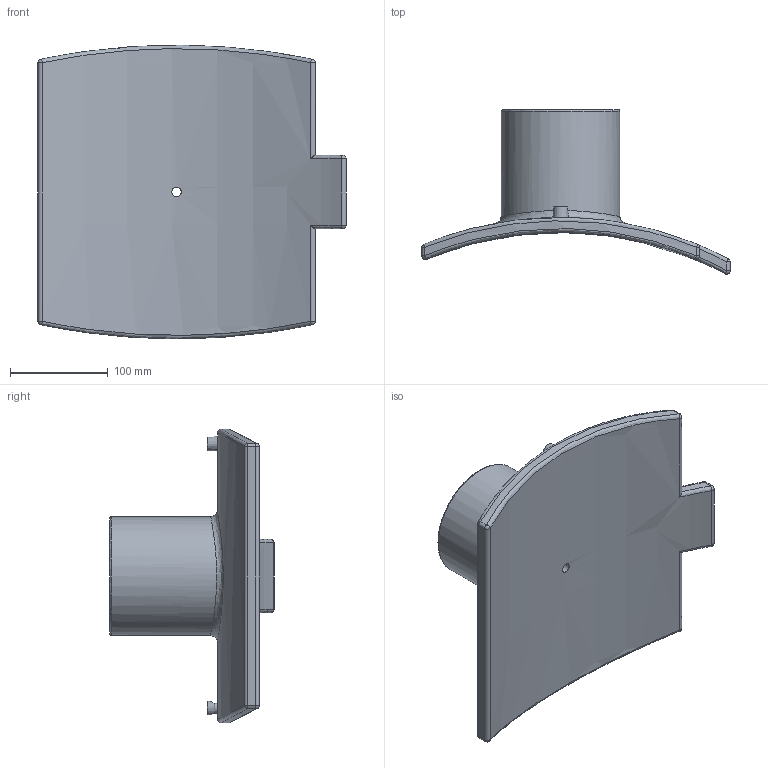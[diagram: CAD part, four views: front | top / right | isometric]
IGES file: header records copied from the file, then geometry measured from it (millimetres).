
Global section: file name: 5958BD03280040.ipt; native system: Autodesk Inventor 2019; preprocessor: unknown; author: KIM; date: 20210830.101236; units: inch
Bounding box: 314.96 x 167.8 x 299.91 mm (x, y, z)
Volume: 1769100.1 mm3; surface area: 268175.4 mm2
Topology: 2 solids, 2 shells, 66 faces, 132 edges, 78 vertices
Faces by surface type: cylinder 22, plane 14, sphere 12, revolution 11, bspline 5, cone 2
Full cylindrical faces by diameter (mm): 4 x2, 16 x1, 121.3 x1
